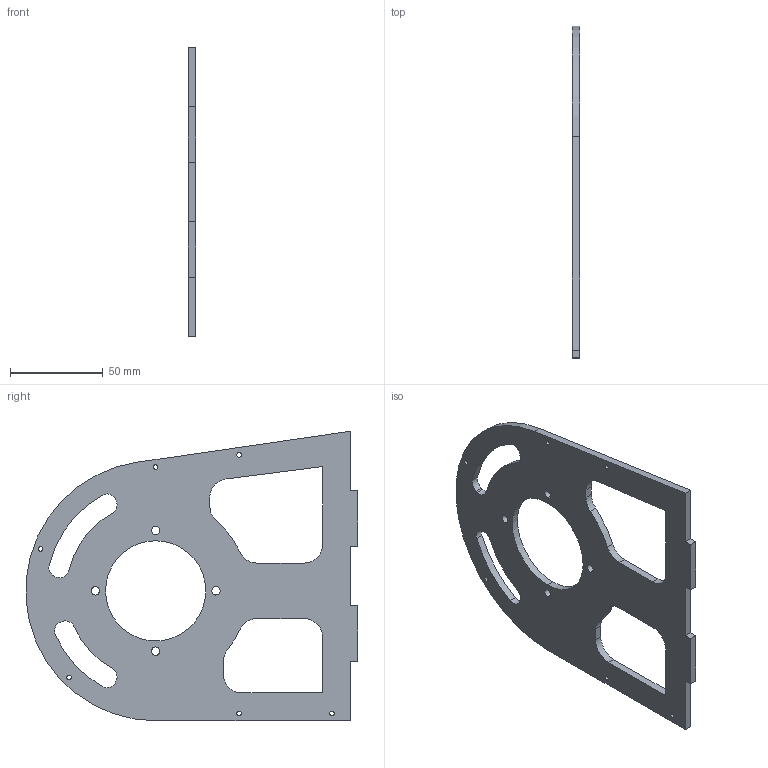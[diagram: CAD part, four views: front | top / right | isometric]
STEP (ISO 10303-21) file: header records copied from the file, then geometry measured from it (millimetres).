
FILE_DESCRIPTION (( 'STEP AP203' ), '1' );
FILE_NAME ('E-Außenteil_v3.STEP', '2026-04-21T19:31:24', ( '' ), ( '' ), 'SwSTEP 2.0', 'SolidWorks 2025', '' );
FILE_SCHEMA (( 'CONFIG_CONTROL_DESIGN' ));
Length unit declared in the file: millimetre
Products named in the file (1): E-Außenteil_v3
Bounding box: 4 x 178.82 x 156 mm (x, y, z)
Volume: 62152.7 mm3; surface area: 36944.5 mm2
Topology: 1 solids, 1 shells, 72 faces, 210 edges, 140 vertices
Faces by surface type: cylinder 47, plane 25
Entity records: 2565 total; most frequent: DIRECTION 450, CARTESIAN_POINT 423, ORIENTED_EDGE 420, EDGE_CURVE 210, AXIS2_PLACEMENT_3D 167, VERTEX_POINT 140, VECTOR 116, LINE 116
